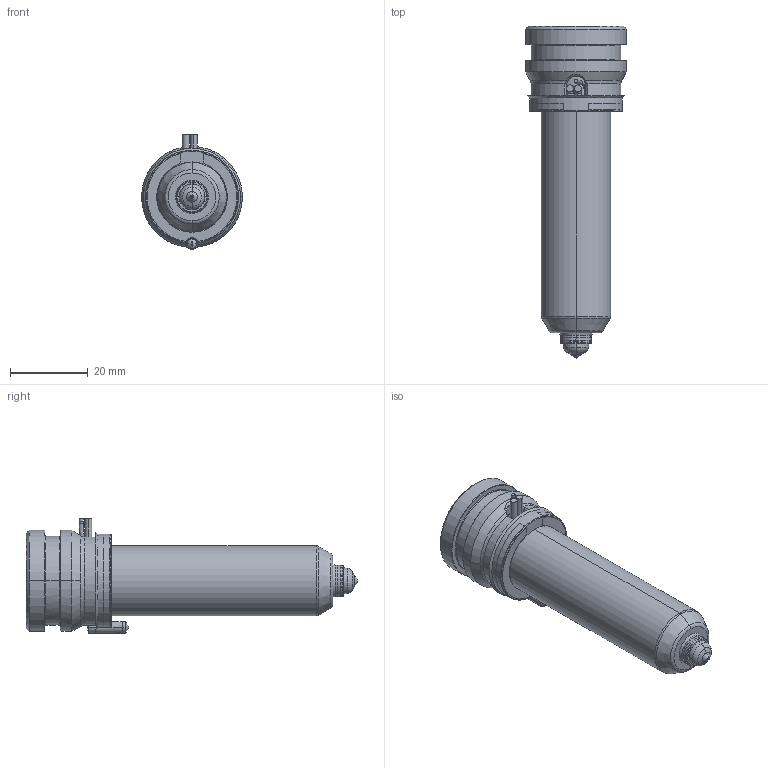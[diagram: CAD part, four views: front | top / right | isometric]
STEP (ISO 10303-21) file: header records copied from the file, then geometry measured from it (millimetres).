
FILE_DESCRIPTION((''),'2;1');
FILE_NAME('TH18067_5-A-1B15-PK-JG','2023-12-14T',('umhib'),('Thermoplay S.p.A.'),'PRO/ENGINEER BY PARAMETRIC TECHNOLOGY CORPORATION, 2017170','PRO/ENGINEER BY PARAMETRIC TECHNOLOGY CORPORATION, 2017170','');
FILE_SCHEMA(('CONFIG_CONTROL_DESIGN'));
Length unit declared in the file: millimetre
Products named in the file (1): TH18067_5-A-1B15-PK-JG
Bounding box: 26 x 85.5 x 29.5 mm (x, y, z)
Volume: 18699.9 mm3; surface area: 13645.9 mm2
Topology: 1 solids, 2 shells, 398 faces, 1036 edges, 643 vertices
Faces by surface type: cylinder 151, plane 85, cone 68, torus 56, bspline 24, sphere 12, extrusion 2
Entity records: 18093 total; most frequent: CARTESIAN_POINT 6125, ORIENTED_EDGE 2048, DIRECTION 2033, EDGE_CURVE 1026, AXIS2_PLACEMENT_3D 816, VERTEX_POINT 643, CIRCLE 443, EDGE_LOOP 418
